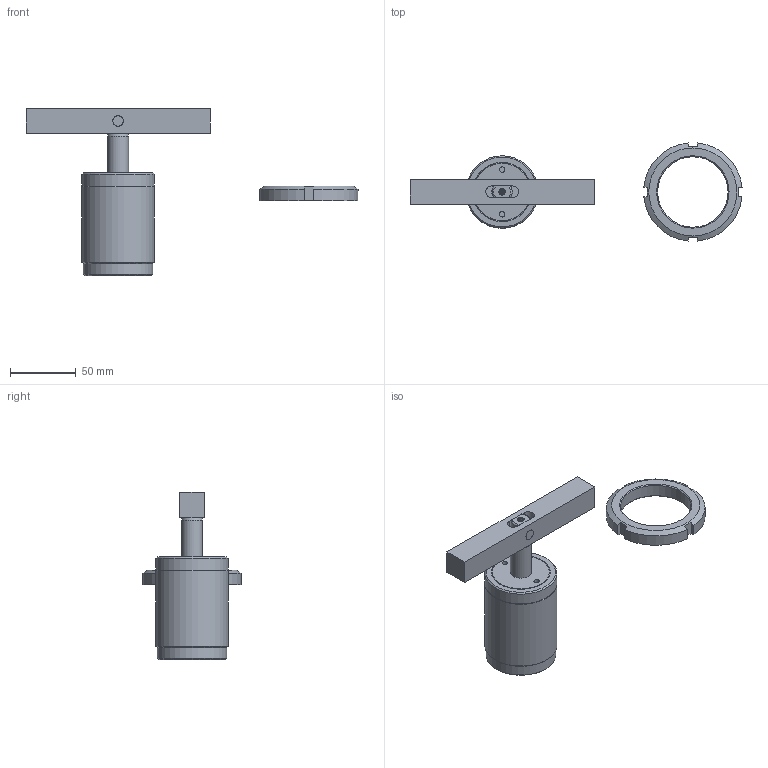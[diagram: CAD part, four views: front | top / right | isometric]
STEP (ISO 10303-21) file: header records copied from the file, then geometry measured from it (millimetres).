
FILE_DESCRIPTION(/* description */ ('Unknown'),/* implementation_level */ '2;1');
FILE_NAME(/* name */ 'ASC-TB40D-B',/* time_stamp */ '2022-08-26T02:42:24+08:00',/* author */ ('Unknown'),/* organization */ ('Unknown'),/* preprocessor_version */ 'ST-DEVELOPER v16.7',/* originating_system */ 'DEX',/* authorisation */ $);
FILE_SCHEMA (('AUTOMOTIVE_DESIGN {1 0 10303 214 3 1 1}'));
Length unit declared in the file: millimetre
Products named in the file (6): ASC-TB40D-B; ASC-4002-D-AXLE CENTRE; ASC-TB40D-CYLINDER; ASC-40D-B; ASC-4002-D-FIXED PIN; ASC-TB40-Nut
Assembly tree (5 placements, depth 2):
  ASC-TB40D-B
    ASC-4002-D-AXLE CENTRE
    ASC-TB40D-CYLINDER
    ASC-40D-B
    ASC-4002-D-FIXED PIN
    ASC-TB40-Nut
Bounding box: 252.34 x 74.67 x 127 mm (x, y, z)
Volume: 226414.9 mm3; surface area: 55333.6 mm2
Topology: 5 solids, 5 shells, 105 faces, 225 edges, 140 vertices
Faces by surface type: plane 48, cylinder 24, cone 17, bspline 12, torus 4
Full cylindrical faces by diameter (mm): 4.1 x2, 8 x4, 9.147 x2, 16 x2, 40 x2, 53 x1, 53.5 x1, 55 x2
Entity records: 3169 total; most frequent: CARTESIAN_POINT 643, DIRECTION 430, ORIENTED_EDGE 356, AXIS2_PLACEMENT_3D 181, EDGE_CURVE 178, EDGE_LOOP 160, FACE_BOUND 160, VERTEX_POINT 128
